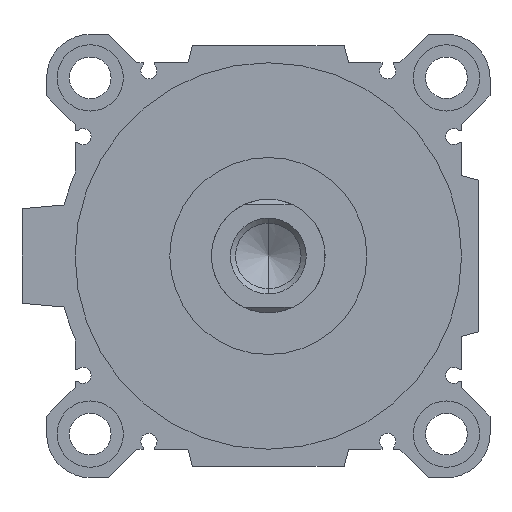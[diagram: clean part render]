
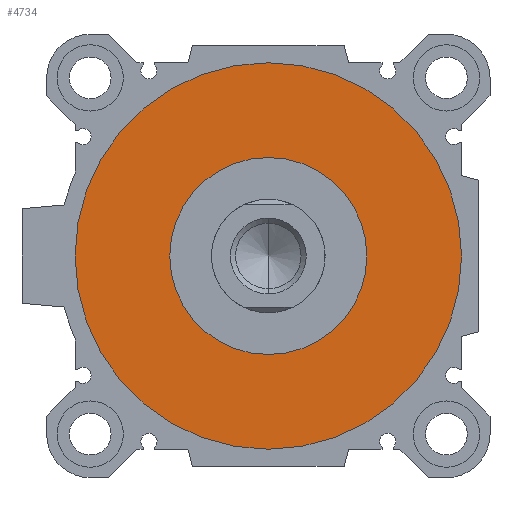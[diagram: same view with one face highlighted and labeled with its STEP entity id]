
A CAD part, left-side view. The second image highlights one B-rep face of the part: STEP entity #4734.
In plain terms, the highlighted planar face has unit normal (-1, 0, 0).
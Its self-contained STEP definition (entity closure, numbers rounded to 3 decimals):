
#309 = VERTEX_POINT ( 'NONE', #843 ) ;
#420 = CARTESIAN_POINT ( 'NONE',  ( 6.5, 0., -26. ) ) ;
#441 = ORIENTED_EDGE ( 'NONE', *, *, #4602, .T. ) ;
#574 = AXIS2_PLACEMENT_3D ( 'NONE', #710, #2366, #3554 ) ;
#710 = CARTESIAN_POINT ( 'NONE',  ( 6.5, 0., 0. ) ) ;
#788 = EDGE_CURVE ( 'NONE', #1838, #4186, #1913, .T. ) ;
#830 = EDGE_LOOP ( 'NONE', ( #441, #2567 ) ) ;
#841 = CARTESIAN_POINT ( 'NONE',  ( 6.5, 0., -51. ) ) ;
#843 = CARTESIAN_POINT ( 'NONE',  ( 6.5, 0., 26. ) ) ;
#967 = CIRCLE ( 'NONE', #3260, 26. ) ;
#995 = CARTESIAN_POINT ( 'NONE',  ( 6.5, 0., 0. ) ) ;
#1080 = DIRECTION ( 'NONE',  ( 1., 0., 0. ) ) ;
#1226 = EDGE_LOOP ( 'NONE', ( #5200, #4919 ) ) ;
#1362 = FACE_BOUND ( 'NONE', #830, .T. ) ;
#1388 = EDGE_CURVE ( 'NONE', #3930, #309, #967, .T. ) ;
#1417 = PLANE ( 'NONE',  #4119 ) ;
#1441 = DIRECTION ( 'NONE',  ( 1., 0., 0. ) ) ;
#1612 = CARTESIAN_POINT ( 'NONE',  ( 6.5, 0., 51. ) ) ;
#1680 = DIRECTION ( 'NONE',  ( 0., 0., -1. ) ) ;
#1838 = VERTEX_POINT ( 'NONE', #841 ) ;
#1888 = EDGE_CURVE ( 'NONE', #4186, #1838, #1977, .T. ) ;
#1913 = CIRCLE ( 'NONE', #574, 51. ) ;
#1977 = CIRCLE ( 'NONE', #2684, 51. ) ;
#2053 = DIRECTION ( 'NONE',  ( 0., 0., -1. ) ) ;
#2160 = DIRECTION ( 'NONE',  ( 0., 0., -1. ) ) ;
#2183 = CARTESIAN_POINT ( 'NONE',  ( 6.5, 0., 0. ) ) ;
#2229 = FACE_OUTER_BOUND ( 'NONE', #1226, .T. ) ;
#2366 = DIRECTION ( 'NONE',  ( 1., 0., 0. ) ) ;
#2567 = ORIENTED_EDGE ( 'NONE', *, *, #1388, .T. ) ;
#2598 = DIRECTION ( 'NONE',  ( 1., 0., 0. ) ) ;
#2684 = AXIS2_PLACEMENT_3D ( 'NONE', #2183, #3480, #1680 ) ;
#3058 = CIRCLE ( 'NONE', #3759, 26. ) ;
#3186 = CARTESIAN_POINT ( 'NONE',  ( 6.5, 0., 0. ) ) ;
#3260 = AXIS2_PLACEMENT_3D ( 'NONE', #3539, #2598, #2160 ) ;
#3480 = DIRECTION ( 'NONE',  ( 1., 0., 0. ) ) ;
#3539 = CARTESIAN_POINT ( 'NONE',  ( 6.5, 0., 0. ) ) ;
#3554 = DIRECTION ( 'NONE',  ( 0., 0., -1. ) ) ;
#3759 = AXIS2_PLACEMENT_3D ( 'NONE', #3186, #1080, #2053 ) ;
#3930 = VERTEX_POINT ( 'NONE', #420 ) ;
#3966 = DIRECTION ( 'NONE',  ( 0., 1., 0. ) ) ;
#4119 = AXIS2_PLACEMENT_3D ( 'NONE', #995, #1441, #3966 ) ;
#4186 = VERTEX_POINT ( 'NONE', #1612 ) ;
#4602 = EDGE_CURVE ( 'NONE', #309, #3930, #3058, .T. ) ;
#4734 = ADVANCED_FACE ( 'NONE', ( #2229, #1362 ), #1417, .F. ) ;
#4919 = ORIENTED_EDGE ( 'NONE', *, *, #788, .F. ) ;
#5200 = ORIENTED_EDGE ( 'NONE', *, *, #1888, .F. ) ;
